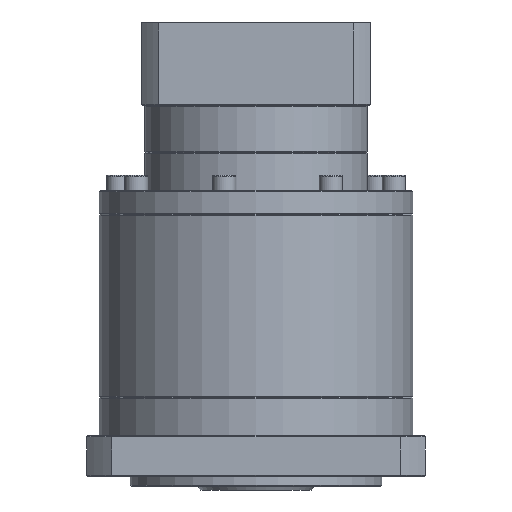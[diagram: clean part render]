
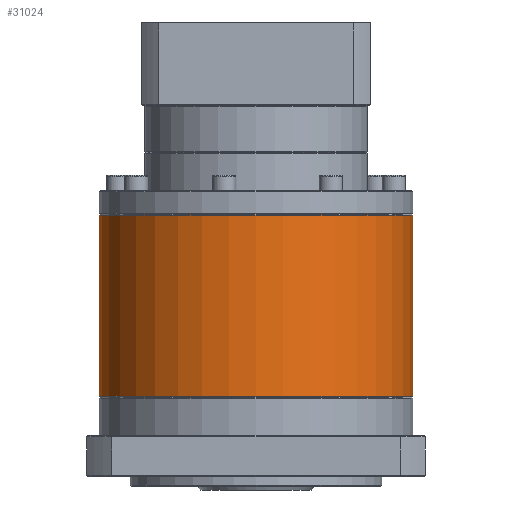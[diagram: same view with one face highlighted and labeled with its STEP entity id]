
A CAD part, front view. The second image highlights one B-rep face of the part: STEP entity #31024.
In plain terms, the highlighted cylindrical face has radius 81 mm (diameter 162 mm), a partial arc.
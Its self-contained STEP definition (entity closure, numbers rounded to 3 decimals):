
#5057 = EDGE_CURVE ( 'NONE', #87501, #17211, #64477, .T. ) ;
#7078 = CARTESIAN_POINT ( 'NONE',  ( -36.886, 57.452, -88.94 ) ) ;
#10924 = LINE ( 'NONE', #48096, #43430 ) ;
#11958 = CIRCLE ( 'NONE', #56905, 81. ) ;
#12589 = VECTOR ( 'NONE', #50559, 1000. ) ;
#13969 = ORIENTED_EDGE ( 'NONE', *, *, #5057, .T. ) ;
#17211 = VERTEX_POINT ( 'NONE', #77506 ) ;
#18748 = DIRECTION ( 'NONE',  ( 0., 0., -1. ) ) ;
#29249 = AXIS2_PLACEMENT_3D ( 'NONE', #65987, #97405, #51117 ) ;
#31024 = ADVANCED_FACE ( 'NONE', ( #35881 ), #41895, .T. ) ;
#35881 = FACE_OUTER_BOUND ( 'NONE', #72520, .T. ) ;
#41374 = ORIENTED_EDGE ( 'NONE', *, *, #50075, .F. ) ;
#41717 = CARTESIAN_POINT ( 'NONE',  ( -117.886, 57.452, -88.44 ) ) ;
#41895 = CYLINDRICAL_SURFACE ( 'NONE', #89381, 81. ) ;
#43430 = VECTOR ( 'NONE', #95054, 1000. ) ;
#44130 = DIRECTION ( 'NONE',  ( 0., 0., -1. ) ) ;
#44714 = ORIENTED_EDGE ( 'NONE', *, *, #96933, .T. ) ;
#44923 = DIRECTION ( 'NONE',  ( -1., 0., 0. ) ) ;
#48096 = CARTESIAN_POINT ( 'NONE',  ( -36.886, 57.452, -88.44 ) ) ;
#48892 = VERTEX_POINT ( 'NONE', #87837 ) ;
#49902 = CARTESIAN_POINT ( 'NONE',  ( -198.886, 57.452, -88.44 ) ) ;
#50075 = EDGE_CURVE ( 'NONE', #99468, #48892, #10924, .T. ) ;
#50559 = DIRECTION ( 'NONE',  ( 0., 0., -1. ) ) ;
#51117 = DIRECTION ( 'NONE',  ( -1., 0., 0. ) ) ;
#56905 = AXIS2_PLACEMENT_3D ( 'NONE', #59604, #44130, #82300 ) ;
#59604 = CARTESIAN_POINT ( 'NONE',  ( -117.886, 57.452, -88.94 ) ) ;
#64477 = LINE ( 'NONE', #49902, #12589 ) ;
#65987 = CARTESIAN_POINT ( 'NONE',  ( -117.886, 57.452, -182.44 ) ) ;
#67462 = EDGE_CURVE ( 'NONE', #99468, #87501, #11958, .T. ) ;
#69225 = CARTESIAN_POINT ( 'NONE',  ( -198.886, 57.452, -88.94 ) ) ;
#72520 = EDGE_LOOP ( 'NONE', ( #41374, #87302, #13969, #44714 ) ) ;
#77467 = CIRCLE ( 'NONE', #29249, 81. ) ;
#77506 = CARTESIAN_POINT ( 'NONE',  ( -198.886, 57.452, -182.44 ) ) ;
#82300 = DIRECTION ( 'NONE',  ( -1., 0., 0. ) ) ;
#87302 = ORIENTED_EDGE ( 'NONE', *, *, #67462, .T. ) ;
#87501 = VERTEX_POINT ( 'NONE', #69225 ) ;
#87837 = CARTESIAN_POINT ( 'NONE',  ( -36.886, 57.452, -182.44 ) ) ;
#89381 = AXIS2_PLACEMENT_3D ( 'NONE', #41717, #18748, #44923 ) ;
#95054 = DIRECTION ( 'NONE',  ( 0., 0., -1. ) ) ;
#96933 = EDGE_CURVE ( 'NONE', #17211, #48892, #77467, .T. ) ;
#97405 = DIRECTION ( 'NONE',  ( 0., 0., 1. ) ) ;
#99468 = VERTEX_POINT ( 'NONE', #7078 ) ;
